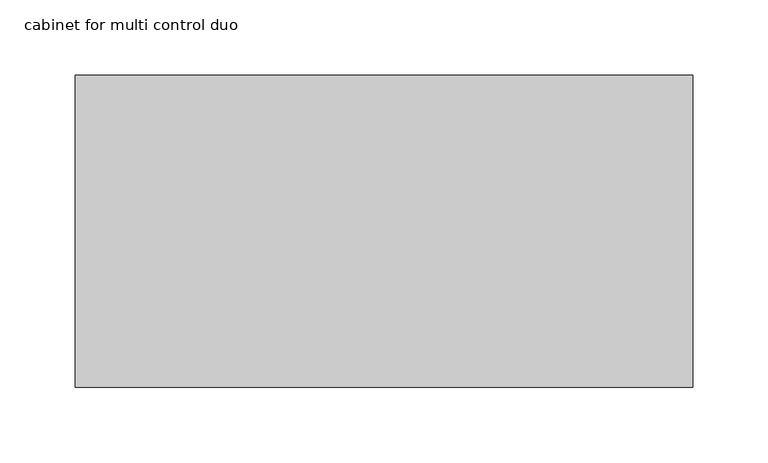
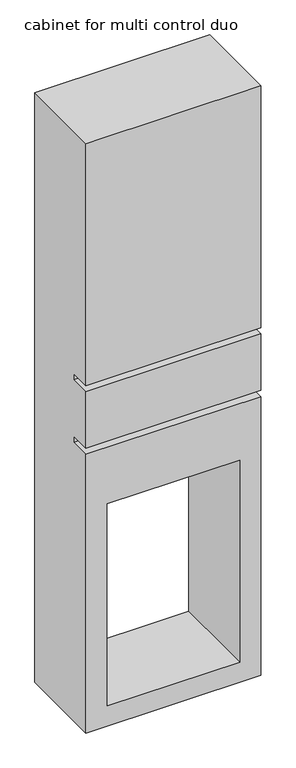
"""IFC4 building model written with IfcOpenShell, lengths in millimetres: furniture geometry, ME_UN_outdoor cabinet_ACO : cabinet for multi control duo."""

from ifc_helpers import new_model, si_unit, origin, place, context, project, spatial, faceted_brep, source, transform, mapped, element, save


def cabinet_for_multi_control_duo_19fc9964(model_context):
    return source(origin(), model_context, "Body", "Brep", [
        faceted_brep([(205.0, 0.0, 860.0), (-205.0, 0.0, 860.0), (-205.0, 0.0, 260.0), (205.0, 0.0, 260.0), (-205.0, 0.0, -600.0), (205.0, 0.0, -600.0), (205.0, 0.0, 90.0), (-205.0, 0.0, 90.0), (155.0, 0.0, -550.0), (-155.0, 0.0, -550.0), (-155.0, 0.0, -50.0), (155.0, 0.0, -50.0), (-205.0, 0.0, 245.0), (-205.0, 0.0, 105.0), (205.0, 0.0, 105.0), (205.0, 0.0, 245.0), (205.0, 207.0, 860.0), (205.0, 207.0, -600.0), (-205.0, 207.0, -600.0), (-205.0, 207.0, 860.0), (-155.0, 207.0, -550.0), (155.0, 207.0, -550.0), (155.0, 207.0, -50.0), (-155.0, 207.0, -50.0), (-205.0, 50.0, 90.0), (-205.0, 50.0, 105.0), (-205.0, 50.0, 245.0), (-205.0, 50.0, 260.0), (205.0, 50.0, 260.0), (205.0, 50.0, 245.0), (205.0, 50.0, 105.0), (205.0, 50.0, 90.0)], [[[0, 1, 2, 3]], [[4, 5, 6, 7], [8, 9, 10, 11]], [[12, 13, 14, 15]], [[16, 17, 18, 19], [20, 21, 22, 23]], [[1, 0, 16, 19]], [[19, 18, 4, 7, 24, 25, 13, 12, 26, 27, 2, 1]], [[5, 4, 18, 17]], [[17, 16, 0, 3, 28, 29, 15, 14, 30, 31, 6, 5]], [[8, 21, 20, 9]], [[21, 8, 11, 22]], [[22, 11, 10, 23]], [[9, 20, 23, 10]], [[30, 25, 24, 31]], [[28, 27, 26, 29]], [[25, 30, 14, 13]], [[31, 24, 7, 6]], [[27, 28, 3, 2]], [[29, 26, 12, 15]]]),
    ])


if __name__ == "__main__":
    model = new_model("IFC4")
    model_context = context("Model", 3, world=origin())
    ifc_project = project(units=[si_unit("LENGTHUNIT", "METRE", prefix="MILLI")], contexts=[model_context])
    site = spatial("IfcSite", under=ifc_project)
    building = spatial("IfcBuilding", under=site)
    placement = place(None, origin())
    cabinet_for_multi_control_duo_shape = cabinet_for_multi_control_duo_19fc9964(model_context)
    element("IfcFurniture", 1, ObjectType="ME_UN_outdoor cabinet_ACO : cabinet for multi control duo", at=placement, inside=building, context=model_context, shape_type="MappedRepresentation", body=[
        mapped(cabinet_for_multi_control_duo_shape, transform((0.0, 0.0, 0.0), x_axis=(1.0, 0.0, 0.0), y_axis=(0.0, 1.0, 0.0), z_axis=(0.0, 0.0, 1.0))),
    ])
    save(model, "model.ifc")
